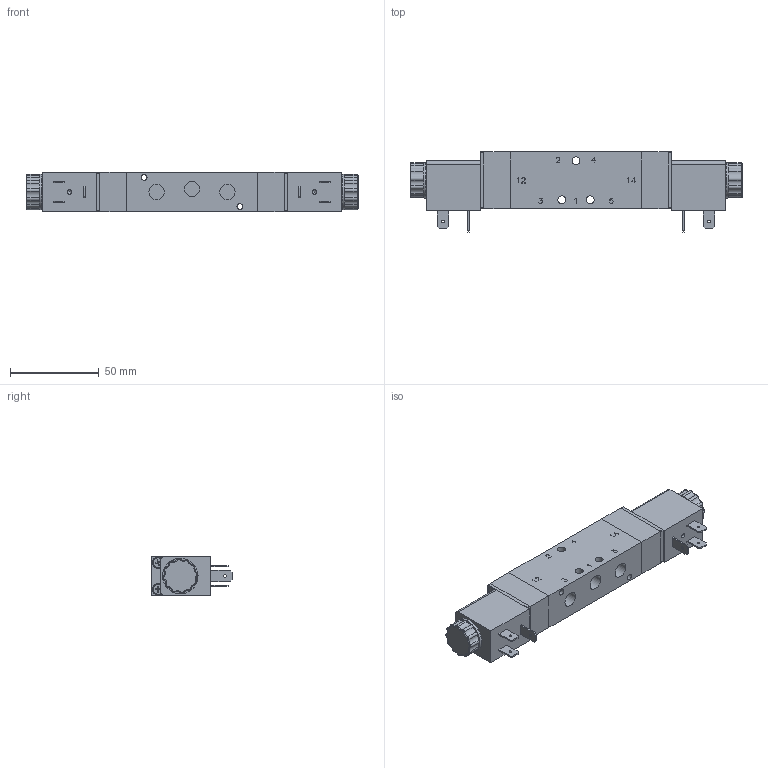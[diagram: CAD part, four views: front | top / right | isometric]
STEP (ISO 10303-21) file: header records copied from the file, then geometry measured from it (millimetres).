
FILE_DESCRIPTION (( 'STEP AP214' ), '1' );
FILE_NAME ('ICK-09-520-HN-F42_Airtec.step', '2019-01-08T09:00:44', ( '' ), ( '' ), 'SwSTEP 2.0', 'SolidWorks 2010', '' );
FILE_SCHEMA (( 'AUTOMOTIVE_DESIGN' ));
Length unit declared in the file: millimetre
Products named in the file (3): Volumenkörper3; Volumenkörper1; ICK-09-520-HN-F42_Airtec
Assembly tree (3 placements, depth 2):
  ICK-09-520-HN-F42_Airtec
    Volumenkörper3
    Volumenkörper1  x2
Bounding box: 187.2 x 45.2 x 22 mm (x, y, z)
Volume: 113726.4 mm3; surface area: 32667.4 mm2
Topology: 3 solids, 3 shells, 978 faces, 2553 edges, 1650 vertices
Faces by surface type: plane 605, cylinder 152, torus 98, cone 95, bspline 28
Full cylindrical faces by diameter (mm): 1.5 x6, 2.459 x2, 2.693 x1, 3.3 x2, 3.4 x1, 4.5 x3, 5.5 x8, 8 x2, 8.15 x2, 8.566 x5, 9.04 x4, 9.1 x2, 15 x2, 16.6 x2, 20 x2
Entity records: 37067 total; most frequent: CARTESIAN_POINT 8317, ORIENTED_EDGE 4750, DIRECTION 4622, EDGE_CURVE 2375, VERTEX_POINT 1573, LINE 1566, VECTOR 1566, AXIS2_PLACEMENT_3D 1528
